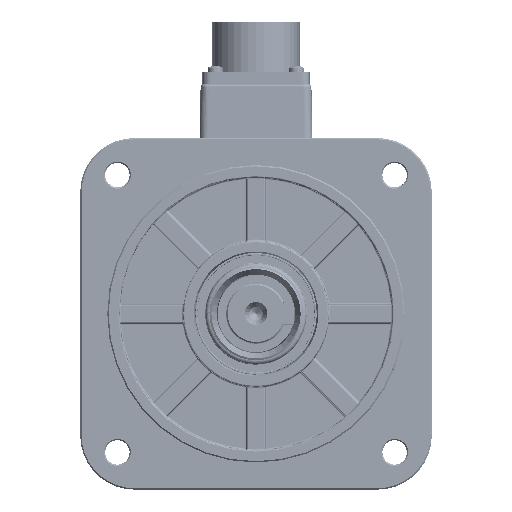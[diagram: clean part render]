
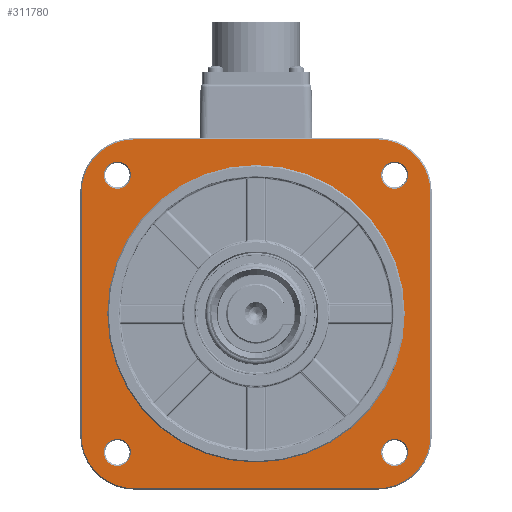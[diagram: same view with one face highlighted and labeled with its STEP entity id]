
A CAD part, top view. The second image highlights one B-rep face of the part: STEP entity #311780.
In plain terms, the highlighted planar face has unit normal (0, 0, 1).
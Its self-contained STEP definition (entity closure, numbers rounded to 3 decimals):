
#1254 = DIRECTION ( 'NONE',  ( 0., 0., 1. ) ) ;
#3396 = CARTESIAN_POINT ( 'NONE',  ( 64.5, -45., -5. ) ) ;
#5816 = ORIENTED_EDGE ( 'NONE', *, *, #305524, .F. ) ;
#14339 = EDGE_LOOP ( 'NONE', ( #21737 ) ) ;
#19215 = EDGE_CURVE ( 'NONE', #265279, #265279, #102053, .T. ) ;
#21737 = ORIENTED_EDGE ( 'NONE', *, *, #19215, .F. ) ;
#27044 = CARTESIAN_POINT ( 'NONE',  ( 45., -45., -5. ) ) ;
#29664 = DIRECTION ( 'NONE',  ( 0., 0., -1. ) ) ;
#30668 = VERTEX_POINT ( 'NONE', #228353 ) ;
#31617 = DIRECTION ( 'NONE',  ( 1., 0., 0. ) ) ;
#34951 = AXIS2_PLACEMENT_3D ( 'NONE', #177217, #119835, #151465 ) ;
#45492 = EDGE_CURVE ( 'NONE', #254013, #180329, #62673, .T. ) ;
#52928 = CARTESIAN_POINT ( 'NONE',  ( 55., 0., -5. ) ) ;
#57759 = AXIS2_PLACEMENT_3D ( 'NONE', #266090, #1254, #356979 ) ;
#62673 = LINE ( 'NONE', #3396, #362212 ) ;
#62831 = DIRECTION ( 'NONE',  ( 1., 0., 0. ) ) ;
#64025 = CIRCLE ( 'NONE', #221652, 5. ) ;
#64335 = ORIENTED_EDGE ( 'NONE', *, *, #267188, .F. ) ;
#66321 = CARTESIAN_POINT ( 'NONE',  ( -64.5, 45., -5. ) ) ;
#71345 = EDGE_CURVE ( 'NONE', #305461, #30668, #83759, .T. ) ;
#74399 = CARTESIAN_POINT ( 'NONE',  ( -64.5, -45., -5. ) ) ;
#76639 = FACE_BOUND ( 'NONE', #171556, .T. ) ;
#83759 = LINE ( 'NONE', #89604, #298537 ) ;
#86018 = CARTESIAN_POINT ( 'NONE',  ( -64.5, -45., -5. ) ) ;
#88112 = DIRECTION ( 'NONE',  ( 1., 0., 0. ) ) ;
#89604 = CARTESIAN_POINT ( 'NONE',  ( 45., -64.5, -5. ) ) ;
#91111 = DIRECTION ( 'NONE',  ( 1., 0., 0. ) ) ;
#92121 = EDGE_CURVE ( 'NONE', #180329, #305461, #308335, .T. ) ;
#98787 = AXIS2_PLACEMENT_3D ( 'NONE', #204939, #228718, #232637 ) ;
#101084 = VECTOR ( 'NONE', #91111, 1000. ) ;
#102053 = CIRCLE ( 'NONE', #57759, 5. ) ;
#104887 = CARTESIAN_POINT ( 'NONE',  ( 51.265, -51.265, -5. ) ) ;
#106394 = VERTEX_POINT ( 'NONE', #317771 ) ;
#114080 = VECTOR ( 'NONE', #248347, 1000. ) ;
#116275 = DIRECTION ( 'NONE',  ( 0., 0., 1. ) ) ;
#117021 = CIRCLE ( 'NONE', #312750, 19.5 ) ;
#119835 = DIRECTION ( 'NONE',  ( 0., 0., 1. ) ) ;
#121638 = CARTESIAN_POINT ( 'NONE',  ( -45., 45., -5. ) ) ;
#134898 = VERTEX_POINT ( 'NONE', #208125 ) ;
#145964 = CARTESIAN_POINT ( 'NONE',  ( -51.265, -51.265, -5. ) ) ;
#146070 = EDGE_CURVE ( 'NONE', #157479, #148353, #345088, .T. ) ;
#147723 = DIRECTION ( 'NONE',  ( 0., -1., 0. ) ) ;
#148353 = VERTEX_POINT ( 'NONE', #66321 ) ;
#151465 = DIRECTION ( 'NONE',  ( 1., 0., 0. ) ) ;
#154219 = ORIENTED_EDGE ( 'NONE', *, *, #181115, .F. ) ;
#156309 = CARTESIAN_POINT ( 'NONE',  ( 45., 64.5, -5. ) ) ;
#157479 = VERTEX_POINT ( 'NONE', #86018 ) ;
#165395 = EDGE_LOOP ( 'NONE', ( #154219 ) ) ;
#166120 = DIRECTION ( 'NONE',  ( 1., 0., 0. ) ) ;
#167565 = ORIENTED_EDGE ( 'NONE', *, *, #238187, .F. ) ;
#171556 = EDGE_LOOP ( 'NONE', ( #188181 ) ) ;
#172447 = DIRECTION ( 'NONE',  ( 0., 0., 1. ) ) ;
#177217 = CARTESIAN_POINT ( 'NONE',  ( 51.265, 51.265, -5. ) ) ;
#179161 = EDGE_LOOP ( 'NONE', ( #300420 ) ) ;
#180329 = VERTEX_POINT ( 'NONE', #275375 ) ;
#181115 = EDGE_CURVE ( 'NONE', #247296, #247296, #201230, .T. ) ;
#188181 = ORIENTED_EDGE ( 'NONE', *, *, #252545, .F. ) ;
#192370 = CIRCLE ( 'NONE', #217456, 55. ) ;
#201230 = CIRCLE ( 'NONE', #207683, 5. ) ;
#204306 = DIRECTION ( 'NONE',  ( -1., 0., 0. ) ) ;
#204939 = CARTESIAN_POINT ( 'NONE',  ( 0., 55., -5. ) ) ;
#207683 = AXIS2_PLACEMENT_3D ( 'NONE', #104887, #225381, #166120 ) ;
#208125 = CARTESIAN_POINT ( 'NONE',  ( 45., 64.5, -5. ) ) ;
#210348 = EDGE_LOOP ( 'NONE', ( #64335 ) ) ;
#217456 = AXIS2_PLACEMENT_3D ( 'NONE', #252116, #172447, #372662 ) ;
#221525 = CARTESIAN_POINT ( 'NONE',  ( 56.265, -51.265, -5. ) ) ;
#221652 = AXIS2_PLACEMENT_3D ( 'NONE', #145964, #116275, #62831 ) ;
#225381 = DIRECTION ( 'NONE',  ( 0., 0., 1. ) ) ;
#226219 = AXIS2_PLACEMENT_3D ( 'NONE', #27044, #236450, #232591 ) ;
#228207 = ORIENTED_EDGE ( 'NONE', *, *, #146070, .F. ) ;
#228353 = CARTESIAN_POINT ( 'NONE',  ( -45., -64.5, -5. ) ) ;
#228718 = DIRECTION ( 'NONE',  ( 0., 0., 1. ) ) ;
#229466 = AXIS2_PLACEMENT_3D ( 'NONE', #387356, #29664, #31617 ) ;
#229900 = EDGE_CURVE ( 'NONE', #304180, #304180, #331609, .T. ) ;
#232591 = DIRECTION ( 'NONE',  ( 1., 0., 0. ) ) ;
#232637 = DIRECTION ( 'NONE',  ( 1., 0., 0. ) ) ;
#234559 = FACE_BOUND ( 'NONE', #165395, .T. ) ;
#236450 = DIRECTION ( 'NONE',  ( 0., 0., -1. ) ) ;
#238187 = EDGE_CURVE ( 'NONE', #30668, #157479, #359488, .T. ) ;
#241889 = CIRCLE ( 'NONE', #229466, 19.5 ) ;
#247296 = VERTEX_POINT ( 'NONE', #221525 ) ;
#248347 = DIRECTION ( 'NONE',  ( 0., 1., 0. ) ) ;
#252116 = CARTESIAN_POINT ( 'NONE',  ( 0., 0., -5. ) ) ;
#252545 = EDGE_CURVE ( 'NONE', #106394, #106394, #64025, .T. ) ;
#254013 = VERTEX_POINT ( 'NONE', #295681 ) ;
#258391 = FACE_BOUND ( 'NONE', #210348, .T. ) ;
#260310 = DIRECTION ( 'NONE',  ( 1., 0., 0. ) ) ;
#265003 = AXIS2_PLACEMENT_3D ( 'NONE', #266154, #325447, #260310 ) ;
#265279 = VERTEX_POINT ( 'NONE', #292956 ) ;
#266090 = CARTESIAN_POINT ( 'NONE',  ( -51.265, 51.265, -5. ) ) ;
#266154 = CARTESIAN_POINT ( 'NONE',  ( -45., -45., -5. ) ) ;
#267188 = EDGE_CURVE ( 'NONE', #375120, #375120, #192370, .T. ) ;
#271044 = ORIENTED_EDGE ( 'NONE', *, *, #45492, .F. ) ;
#274512 = CARTESIAN_POINT ( 'NONE',  ( 56.265, 51.265, -5. ) ) ;
#275375 = CARTESIAN_POINT ( 'NONE',  ( 64.5, -45., -5. ) ) ;
#282809 = EDGE_CURVE ( 'NONE', #390668, #134898, #361815, .T. ) ;
#291917 = FACE_BOUND ( 'NONE', #14339, .T. ) ;
#292759 = ORIENTED_EDGE ( 'NONE', *, *, #92121, .F. ) ;
#292956 = CARTESIAN_POINT ( 'NONE',  ( -46.265, 51.265, -5. ) ) ;
#295635 = DIRECTION ( 'NONE',  ( 0., 0., -1. ) ) ;
#295681 = CARTESIAN_POINT ( 'NONE',  ( 64.5, 45., -5. ) ) ;
#298245 = EDGE_LOOP ( 'NONE', ( #323951, #292759, #271044, #5816, #367485, #337469, #228207, #167565 ) ) ;
#298537 = VECTOR ( 'NONE', #204306, 1000. ) ;
#300420 = ORIENTED_EDGE ( 'NONE', *, *, #229900, .F. ) ;
#304180 = VERTEX_POINT ( 'NONE', #274512 ) ;
#305461 = VERTEX_POINT ( 'NONE', #347931 ) ;
#305524 = EDGE_CURVE ( 'NONE', #134898, #254013, #241889, .T. ) ;
#308335 = CIRCLE ( 'NONE', #226219, 19.5 ) ;
#311780 = ADVANCED_FACE ( 'NONE', ( #376981, #291917, #321575, #234559, #76639, #258391 ), #317673, .T. ) ;
#312750 = AXIS2_PLACEMENT_3D ( 'NONE', #121638, #295635, #88112 ) ;
#317673 = PLANE ( 'NONE',  #98787 ) ;
#317771 = CARTESIAN_POINT ( 'NONE',  ( -46.265, -51.265, -5. ) ) ;
#321575 = FACE_BOUND ( 'NONE', #179161, .T. ) ;
#323951 = ORIENTED_EDGE ( 'NONE', *, *, #71345, .F. ) ;
#325447 = DIRECTION ( 'NONE',  ( 0., 0., -1. ) ) ;
#331338 = EDGE_CURVE ( 'NONE', #148353, #390668, #117021, .T. ) ;
#331609 = CIRCLE ( 'NONE', #34951, 5. ) ;
#337469 = ORIENTED_EDGE ( 'NONE', *, *, #331338, .F. ) ;
#345088 = LINE ( 'NONE', #74399, #114080 ) ;
#347931 = CARTESIAN_POINT ( 'NONE',  ( 45., -64.5, -5. ) ) ;
#356979 = DIRECTION ( 'NONE',  ( 1., 0., 0. ) ) ;
#359488 = CIRCLE ( 'NONE', #265003, 19.5 ) ;
#361815 = LINE ( 'NONE', #156309, #101084 ) ;
#362212 = VECTOR ( 'NONE', #147723, 1000. ) ;
#367485 = ORIENTED_EDGE ( 'NONE', *, *, #282809, .F. ) ;
#370736 = CARTESIAN_POINT ( 'NONE',  ( -45., 64.5, -5. ) ) ;
#372662 = DIRECTION ( 'NONE',  ( 1., 0., 0. ) ) ;
#375120 = VERTEX_POINT ( 'NONE', #52928 ) ;
#376981 = FACE_OUTER_BOUND ( 'NONE', #298245, .T. ) ;
#387356 = CARTESIAN_POINT ( 'NONE',  ( 45., 45., -5. ) ) ;
#390668 = VERTEX_POINT ( 'NONE', #370736 ) ;
